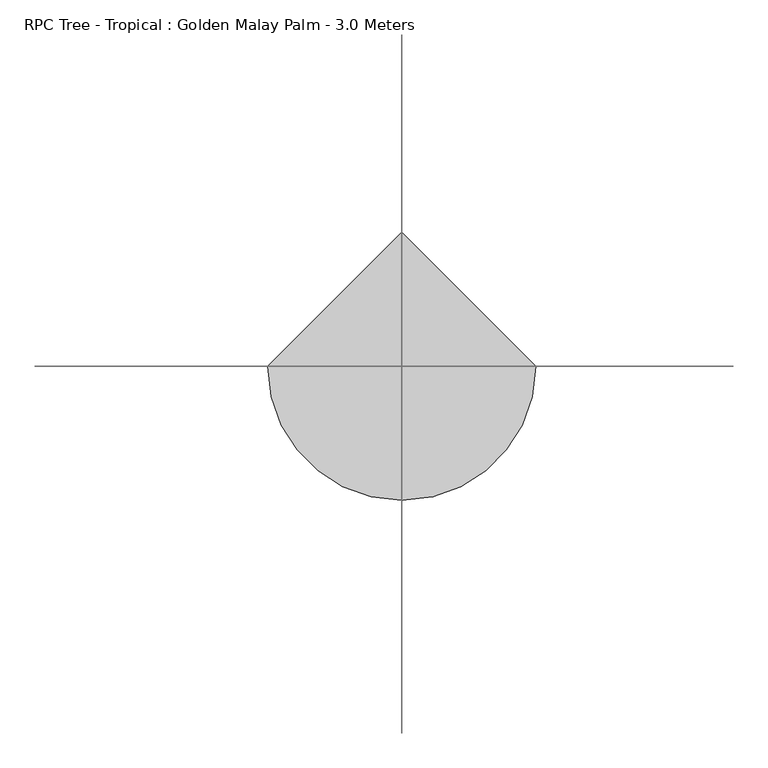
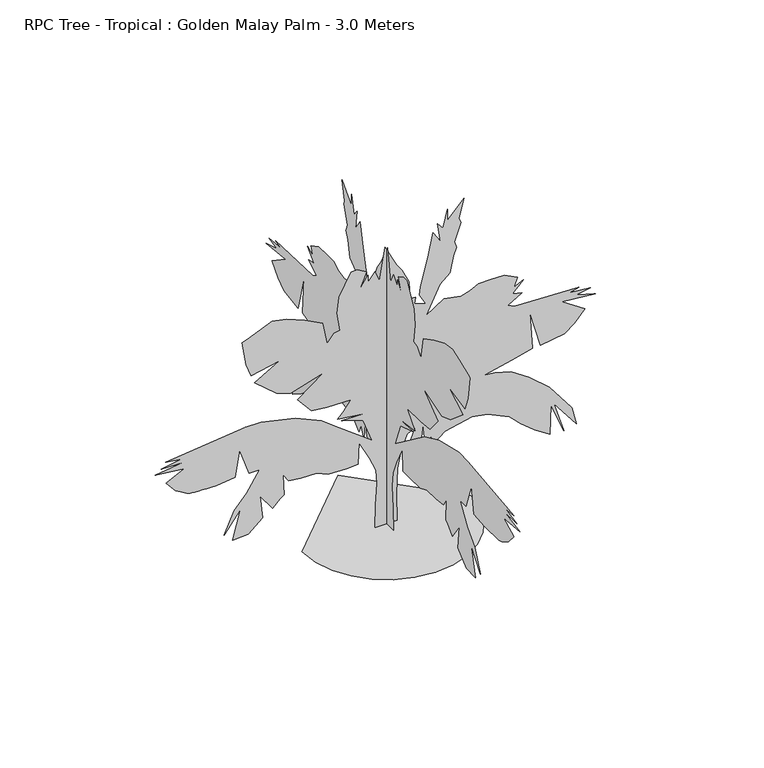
"""IFC4 building model written with IfcOpenShell, lengths in millimetres: geographic element geometry, RPC Tree - Tropical : Golden Malay Palm - 3.0 Meters."""

import ifcopenshell
import ifcopenshell.guid

model = None  # the IFC model being written
_history = None  # IfcOwnerHistory: only IFC2X3 demands one
_inside = {}  # id of a spatial element -> (the spatial element, [elements in it])
_under = {}  # id of a project, library or spatial element -> (it, [spatial elements below it])
_declared = {}  # id of a project -> (the project, [libraries it declares])
_typed = {}  # id of a type object -> (the type object, [elements of that type])
_made_of = {}  # id of a material, layer set ... -> (it, [elements and type objects made of it])


def new_model(schema):
    """Start an empty IFC model of exactly this schema.

    Asked for "IFC4X3", IfcOpenShell would pick the latest addendum, in which some entities
    have other attributes; the version numbers below select the first issue.
    IFC2X3 requires an IfcOwnerHistory on every rooted entity: one is made here for all.
    """
    global model, _history
    if schema == "IFC4X3":
        model = ifcopenshell.file(schema_version=(4, 3, 0, 0))
    else:
        model = ifcopenshell.file(schema=schema)
    _inside.clear()
    _under.clear()
    _declared.clear()
    _typed.clear()
    _made_of.clear()
    _history = None
    if model.schema == "IFC2X3":
        org = make("IfcOrganization", Name="unknown")
        user = make(
            "IfcPersonAndOrganization",
            ThePerson=make("IfcPerson", FamilyName="unknown"),
            TheOrganization=org,
        )
        app = make(
            "IfcApplication",
            ApplicationDeveloper=org,
            Version="unknown",
            ApplicationFullName="unknown",
            ApplicationIdentifier="unknown",
        )
        _history = make(
            "IfcOwnerHistory",
            OwningUser=user,
            OwningApplication=app,
            ChangeAction="ADDED",
            CreationDate=0,
        )
    return model


def make(cls, **values):
    """One entity of the class cls with the attributes given. An attribute that is None is left unset."""
    return model.create_entity(
        cls, **{name: value for name, value in values.items() if value is not None}
    )


def rooted(cls, **values):
    """An entity with a GlobalId (a new one), such as an element, a storey or a relation."""
    return make(cls, GlobalId=ifcopenshell.guid.new(), OwnerHistory=_history, **values)


def si_unit(unit_type, name, prefix=None):
    """IfcSIUnit, for example si_unit("LENGTHUNIT", "METRE", prefix="MILLI")."""
    return make("IfcSIUnit", UnitType=unit_type, Prefix=prefix, Name=name)


def assignment(units):
    """IfcUnitAssignment: the units of a project."""
    return None if units is None else make("IfcUnitAssignment", Units=units)


def point(xyz):
    """IfcCartesianPoint."""
    return None if xyz is None else make("IfcCartesianPoint", Coordinates=xyz)


def direction(xyz):
    """IfcDirection."""
    return None if xyz is None else make("IfcDirection", DirectionRatios=xyz)


def frame(location, z_axis=None, x_axis=None):
    """IfcAxis2Placement3D, a coordinate frame: its origin and axes. An axis left out is left unset."""
    return make(
        "IfcAxis2Placement3D",
        Location=point(location),
        Axis=direction(z_axis),
        RefDirection=direction(x_axis),
    )


def origin():
    """The frame at (0, 0, 0) with its axes left unset."""
    return frame((0.0, 0.0, 0.0))


def place(relative_to, where):
    """IfcLocalPlacement: puts the frame where relative to a parent placement (None: the world)."""
    return make(
        "IfcLocalPlacement", PlacementRelTo=relative_to, RelativePlacement=where
    )


def context(
    kind, dimensions, precision=None, world=None, true_north=None, identifier=None
):
    """IfcGeometricRepresentationContext, for example the 3D "Model" context."""
    return make(
        "IfcGeometricRepresentationContext",
        ContextIdentifier=identifier,
        ContextType=kind,
        CoordinateSpaceDimension=dimensions,
        Precision=precision,
        WorldCoordinateSystem=world,
        TrueNorth=true_north,
    )


def project(units=None, contexts=None):
    """IfcProject with its units and contexts."""
    return rooted(
        "IfcProject",
        Name="project",
        RepresentationContexts=contexts,
        UnitsInContext=assignment(units),
    )


def spatial(cls, under=None, at=None, **own):
    """A site, building, storey or space (cls), placed at a placement, below another one or the project."""
    s = rooted(cls, ObjectPlacement=at, **own)
    if under is not None:
        _under.setdefault(under.id(), (under, []))[1].append(s)
    return s


def point_list(points):
    """IfcCartesianPointList2D or 3D."""
    cls = (
        "IfcCartesianPointList2D" if len(points[0]) == 2 else "IfcCartesianPointList3D"
    )
    return make(cls, CoordList=points)


def triangles(points, corners, closed=None, point_numbers=None):
    """IfcTriangulatedFaceSet: each triangle names its three corners, points numbered from 1."""
    return make(
        "IfcTriangulatedFaceSet",
        Coordinates=point_list(points),
        Closed=closed,
        CoordIndex=corners,
        PnIndex=point_numbers,
    )


def shape(context_of_items, identifier, shape_type, items):
    """IfcShapeRepresentation: the items that make up one representation, for example the "Body"."""
    return make(
        "IfcShapeRepresentation",
        ContextOfItems=context_of_items,
        RepresentationIdentifier=identifier,
        RepresentationType=shape_type,
        Items=items,
    )


def source(mapping_origin, context_of_items, identifier, shape_type, items):
    """IfcRepresentationMap: a shape defined once, which mapped items show again and again."""
    return make(
        "IfcRepresentationMap",
        MappingOrigin=mapping_origin,
        MappedRepresentation=shape(context_of_items, identifier, shape_type, items),
    )


def transform(
    local_origin,
    x_axis=None,
    y_axis=None,
    z_axis=None,
    scale=None,
    scale2=None,
    scale3=None,
    uniform=True,
):
    """IfcCartesianTransformationOperator3D, or its non-uniform kind. x_axis, y_axis, z_axis: its Axis1, 2, 3."""
    if uniform:
        return make(
            "IfcCartesianTransformationOperator3D",
            Axis1=direction(x_axis),
            Axis2=direction(y_axis),
            LocalOrigin=point(local_origin),
            Scale=scale,
            Axis3=direction(z_axis),
        )
    return make(
        "IfcCartesianTransformationOperator3DnonUniform",
        Axis1=direction(x_axis),
        Axis2=direction(y_axis),
        LocalOrigin=point(local_origin),
        Scale=scale,
        Axis3=direction(z_axis),
        Scale2=scale2,
        Scale3=scale3,
    )


def mapped(mapping_source, mapping_target):
    """IfcMappedItem: shows the shape of a source again, moved by a transform."""
    return make(
        "IfcMappedItem", MappingSource=mapping_source, MappingTarget=mapping_target
    )


def made_of(thing, what):
    """Note that an element or type object is made of a material, layer set ...; save() writes the relation."""
    if what is not None:
        _made_of.setdefault(what.id(), (what, []))[1].append(thing)
    return thing


def element(
    cls,
    number,
    at=None,
    inside=None,
    cuts=None,
    type_object=None,
    material=None,
    context=None,
    identifier="Body",
    shape_type=None,
    held_by="IfcProductDefinitionShape",
    body=None,
    shapes=None,
    **own,
):
    """One element of the class cls, such as IfcWall. Its Tag is "e" and its number.

    at: its placement. inside: the storey or other place that contains it. cuts: it is an
    opening in that element (IfcRelVoidsElement). A single representation is given by context,
    identifier, shape_type and body (its items); several are given by shapes. held_by: the class
    of the entity that holds the representations. save() writes the other relations.
    """
    e = rooted(cls, Tag="e%d" % number, ObjectPlacement=at, **own)
    if body is not None:
        shapes = [shape(context, identifier, shape_type, body)]
    if shapes is not None:
        e.Representation = make(held_by, Representations=shapes)
    if inside is not None:
        _inside.setdefault(inside.id(), (inside, []))[1].append(e)
    if cuts is not None:
        rooted(
            "IfcRelVoidsElement", RelatingBuildingElement=cuts, RelatedOpeningElement=e
        )
    if type_object is not None:
        _typed.setdefault(type_object.id(), (type_object, []))[1].append(e)
    return made_of(e, material)


def aggregate(whole, parts):
    """IfcRelAggregates: a whole, such as a stair, and the parts it consists of."""
    return rooted("IfcRelAggregates", RelatingObject=whole, RelatedObjects=parts)


def save(model, path):
    """Write the relations noted so far, then the file.

    IfcRelAggregates (storeys below a building ...), IfcRelContainedInSpatialStructure (elements
    in a storey), IfcRelDefinesByType, IfcRelAssociatesMaterial and IfcRelDeclares: one each for
    every whole, place, type object, material and project.
    """
    for whole, parts in _under.values():
        aggregate(whole, parts)
    for where, things in _inside.values():
        rooted(
            "IfcRelContainedInSpatialStructure",
            RelatedElements=things,
            RelatingStructure=where,
        )
    for kind, things in _typed.values():
        rooted("IfcRelDefinesByType", RelatedObjects=things, RelatingType=kind)
    for what, things in _made_of.values():
        rooted("IfcRelAssociatesMaterial", RelatedObjects=things, RelatingMaterial=what)
    for by, libraries in _declared.values():
        rooted("IfcRelDeclares", RelatingContext=by, RelatedDefinitions=libraries)
    model.write(path)


def rpc_tree_tropical_golden_malay_palm_3_0_meters_7e528e70(model_context):
    return source(origin(), model_context, "Body", "Tessellation", [
        triangles([(0.1967685, 131.4186953, 659.512215), (0.196785, 101.6669593, 520.6697814), (0.1968146, 91.7494597, 272.7373858), (0.1968471, 96.708214, 0.0107067), (0.1968471, -111.5552093, 0.0107067), (0.1968205, -106.5969546, 223.1504053), (0.1967951, -91.720964, 436.3723105), (0.1967791, -101.6382093, 570.2572706), (0.196762, -161.1419446, 714.0572142), (0.1967395, -260.3148883, 902.487137), (0.1967649, -270.232397, 689.2647594), (0.1967655, -379.3223408, 684.3047424), (0.1967649, -552.8747924, 689.2647594), (0.196759, -661.9672251, 738.8496689), (0.196759, -815.6846592, 738.8496689), (0.1967572, -929.7346018, 753.7271765), (0.1967478, -979.3195839, 833.064703), (0.196772, -969.4020933, 629.7597433), (0.196775, -1009.0721283, 604.9672523), (0.1967838, -1078.4945623, 530.587272), (0.1967643, -1197.5020512, 694.222233), (0.1967909, -1172.707053, 471.0823285), (0.1968051, -1311.5519211, 352.074876), (0.1968057, -1460.3094109, 347.1173661), (0.196772, -1380.971957, 629.7597433), (0.1967963, -1539.6493355, 426.45482), (0.1967714, -1445.4344467, 634.7197603), (0.1967555, -1326.4270306, 768.6022133), (0.1967324, -1202.4595247, 961.9896097), (0.1967324, -1301.6345032, 961.9896097), (0.1967017, -1390.8893749, 1219.8394958), (0.1967318, -1435.5168835, 966.9496267), (0.1967342, -1614.0293884, 947.1146456), (0.1967341, -1660.5493687, 948.1846384), (0.1967339, -1705.684259, 949.2971432), (0.1967338, -1748.041848, 950.4971426), (0.1967336, -1786.236755, 951.8271486), (0.1967334, -1818.8817101, 953.3296005), (0.1967332, -1844.584211, 955.0520971), (0.196733, -1861.961784, 957.0321362), (0.1967325, -1876.0142693, 960.8921476), (0.1967317, -1892.406728, 967.8746429), (0.1967306, -1910.7542999, 977.4595957), (0.1967292, -1930.6591896, 989.1245813), (0.1967276, -1951.7391529, 1002.3545877), (0.1967259, -1973.596685, 1016.6221035), (0.1967241, -1995.8466351, 1031.4121164), (0.1967117, -2085.1016521, 1135.5445684), (0.1967017, -1916.5067104, 1219.8394958), (0.1966981, -2189.2341042, 1249.5920403), (0.1966934, -1921.4667274, 1289.2620026), (0.1966928, -2134.6891777, 1294.2195488), (0.1966887, -1946.2592548, 1328.9319649), (0.1966863, -2090.0591984, 1348.766946), (0.1966763, -1336.3444485, 1433.0619461), (0.1966763, -1187.5845606, 1433.0619461), (0.1966851, -860.3121677, 1358.6818932), (0.1966987, -617.3397892, 1244.634494), (0.1967141, -448.7448112, 1115.7095873), (0.1967419, -136.3486996, 882.6521559), (0.1967141, -225.6046523, 1115.7095873), (0.1967064, -428.90983, 1180.1720043), (0.196707, -215.6871617, 1175.21206), (0.1967028, -463.6198116, 1209.9245487), (0.1966969, -414.0323224, 1259.5094582), (0.1966851, -334.6948686, 1358.6818932), (0.1966845, -562.7947901, 1363.6419102), (0.1966828, -711.5522072, 1378.5170197), (0.1966638, -845.4371309, 1537.1943981), (0.196642, -597.5047717, 1720.664304), (0.1966532, -909.8996206, 1626.451886), (0.1966479, -1043.784617, 1671.0793945), (0.1966266, -1252.0469776, 1849.5892834), (0.1966106, -1014.0320726, 1983.4741344), (0.1966171, -1281.799522, 1928.929208), (0.1966018, -1331.3869022, 2057.8541874), (0.196574, -1366.0969929, 2290.9116188), (0.1965728, -1331.3869022, 2300.8290367), (0.1965657, -1192.5420341, 2360.3315094), (0.1965604, -1083.4520359, 2404.9590179), (0.1965633, -949.5696556, 2380.1664906), (0.1965722, -776.0146969, 2305.7865829), (0.1965829, -607.4222623, 2216.5315659), (0.1966089, -562.7947901, 1998.3492439), (0.1965994, -498.3297933, 2077.6891685), (0.1965982, -438.8273206, 2087.6067318), (0.1965763, -468.5798286, 2271.0766376), (0.196558, -448.7448112, 2424.7939991), (0.1965332, -334.6948686, 2633.0488747), (0.1965326, -280.1498876, 2638.0238617), (0.1965385, -190.8936715, 2588.4239822), (0.1965574, -255.3573966, 2429.7540161), (0.1965433, -176.0179261, 2548.7490784), (0.1965515, -176.0179261, 2479.3390709), (0.1965421, -111.5552093, 2558.674054), (0.1965545, -66.9277235, 2454.5463982), (0.1965166, -17.3408179, 2771.8988297), (0.1965421, 91.7494597, 2558.674054), (0.1965509, 146.2949402, 2484.2989426), (0.1965675, 210.7571574, 2345.4565453), (0.1965882, 220.6749205, 2171.9042027), (0.1965882, 275.2198833, 2171.9042027), (0.1965959, 265.3023927, 2107.441713), (0.1966006, 374.3923365, 2067.7716053), (0.1965876, 309.9298831, 2176.8616035), (0.1965775, 319.8473737, 2261.1590744), (0.1965456, 389.2698441, 2528.9241257), (0.1965184, 438.8548262, 2757.0238655), (0.1965314, 508.2772965, 2647.9238388), (0.1965096, 483.4848055, 2831.3989769), (0.1965173, 533.0697876, 2766.9488411), (0.196496, 577.6972598, 2945.4487015), (0.1965096, 577.6972598, 2831.3989769), (0.1964895, 731.417201, 2999.9988602), (0.1965113, 686.7896925, 2816.5240128), (0.1965166, 701.6647293, 2771.8988297), (0.1965373, 642.1597132, 2598.3489578), (0.196545, 661.994767, 2533.8741142), (0.1965539, 632.2422226, 2459.5039444), (0.1965728, 597.5322773, 2300.8290367), (0.1965823, 503.3173159, 2221.4891121), (0.1966148, 374.3923365, 1948.7641891), (0.1966012, 542.9872782, 2062.8117336), (0.1966053, 701.6647293, 2028.101643), (0.1966024, 790.9196737, 2052.8941704), (0.196597, 870.259671, 2097.5241497), (0.196597, 979.3495966, 2097.5241497), (0.196597, 1113.2345203, 2097.5241497), (0.1966047, 1237.1994827, 2033.06166), (0.1966154, 1207.447011, 1943.8041721), (0.19661, 1296.7044262, 1988.4316807), (0.1966225, 1192.5720469, 1884.3016994), (0.1966248, 1281.8269913, 1864.4667183), (0.1966343, 1147.9445383, 1785.1267937), (0.1966384, 1212.407028, 1750.4168484), (0.1966414, 1822.3217617, 1725.624321), (0.1966437, 1728.1068729, 1705.7893398), (0.1966461, 1931.4117599, 1685.9543587), (0.1966491, 1797.5292343, 1661.1618313), (0.1966556, 1976.0392685, 1606.6169048), (0.1966514, 1658.686837, 1641.3268501), (0.1966692, 1876.8666882, 1492.5668896), (0.1966822, 1777.6942532, 1383.4768913), (0.196691, 1683.4793644, 1309.0969837), (0.1966952, 1455.38195, 1274.3870384), (0.196652, 1356.2068989, 1636.3668331), (0.1966952, 1381.001897, 1274.3870384), (0.1967011, 1192.5720469, 1224.7995129), (0.1967082, 919.8446531, 1165.2945694), (0.1967099, 1023.9771051, 1150.4195326), (0.1967147, 1177.69701, 1110.7495703), (0.1967283, 1346.289481, 996.7020985), (0.1967484, 1539.6769501, 828.1071568), (0.1967821, 1752.9018711, 545.4622725), (0.1968028, 1797.5292343, 371.9098572), (0.1967702, 1584.3069294, 644.6372509), (0.1968063, 1678.5218182, 342.1573491), (0.1967708, 1554.554385, 639.6772339), (0.1968045, 1544.6368217, 357.0348567), (0.1967933, 1400.8368782, 451.2498181), (0.1967809, 1271.909428, 555.379763), (0.1967679, 1162.8195024, 664.4697613), (0.1967561, 954.5571419, 763.6446671), (0.1967531, 805.7971813, 788.4371944), (0.1967596, 552.9047688, 733.8921953), (0.1967696, 448.7723167, 649.5947245), (0.1967602, 419.0223158, 728.9347218), (0.1967726, 374.3923365, 624.8022697), (0.1967442, 344.6423718, 862.8171747), (0.1967667, 319.8473737, 674.3872519), (0.1967685, 230.5919024, 659.512215), (0.1967561, 230.5919024, 763.6446671), (0.196743, 275.2198833, 872.7346653), (0.1967484, 190.9226668, 828.1071568), (0.1967584, 161.1709399, 743.8096859), (131.6153675, 0.0001619, 659.512215), (101.8636316, 0.0001785, 520.6697814), (91.9461319, 0.000208, 272.7373858), (96.9048863, 0.0002405, 0.0106061), (-111.3585371, 0.0002405, 0.0106934), (-106.4002823, 0.0002139, 223.1504053), (-91.524537, 0.0001885, 436.3723105), (-101.441537, 0.0001726, 570.2572706), (-160.9455176, 0.0001554, 714.0572142), (-260.1182251, 0.000133, 902.487137), (-270.0357339, 0.0001584, 689.2647594), (-379.1256595, 0.000159, 684.3047424), (-552.6805819, 0.0001584, 689.2647594), (-661.7705801, 0.0001525, 738.8496689), (-815.4880142, 0.0001525, 738.8496689), (-929.5379568, 0.0001507, 753.7271765), (-979.1254824, 0.0001412, 833.064703), (-969.2054483, 0.0001655, 629.7597433), (-1008.8754833, 0.0001684, 604.9672523), (-1078.2979174, 0.0001773, 530.587272), (-1197.3054062, 0.0001578, 694.222233), (-1172.510408, 0.0001844, 471.0823285), (-1311.3552761, 0.0001986, 352.074876), (-1460.1127659, 0.0001992, 347.1173661), (-1380.775312, 0.0001655, 629.7597433), (-1539.4526905, 0.0001897, 426.45482), (-1445.2378017, 0.0001649, 634.7197603), (-1326.2303856, 0.0001489, 768.6022133), (-1202.2628798, 0.0001259, 961.9896097), (-1301.4378582, 0.0001259, 961.9896097), (-1390.6927299, 9.51e-05, 1219.8394958), (-1435.3202385, 0.0001253, 966.9496267), (-1613.8327435, 0.0001276, 947.1146456), (-1660.3527237, 0.0001275, 948.1846384), (-1705.4876141, 0.0001274, 949.2971432), (-1747.845203, 0.0001272, 950.4971426), (-1786.04011, 0.0001271, 951.8271486), (-1818.6850651, 0.0001269, 953.3296005), (-1844.387566, 0.0001267, 955.0520971), (-1861.765139, 0.0001265, 957.0321362), (-1875.8176243, 0.000126, 960.8921476), (-1892.210083, 0.0001252, 967.8746429), (-1910.557655, 0.000124, 977.4595957), (-1930.4625446, 0.0001226, 989.1245813), (-1951.5425079, 0.0001211, 1002.3545877), (-1973.4000401, 0.0001194, 1016.6221035), (-1995.6499901, 0.0001176, 1031.4121164), (-2084.9050072, 0.0001052, 1135.5445684), (-1916.3100655, 9.51e-05, 1219.8394958), (-2189.0374592, 9.16e-05, 1249.5920403), (-1921.2700825, 8.69e-05, 1289.2620026), (-2134.4925327, 8.63e-05, 1294.2195488), (-1946.0626099, 8.21e-05, 1328.9319649), (-2089.8625534, 7.98e-05, 1348.766946), (-1336.1478035, 6.97e-05, 1433.0619461), (-1187.3879156, 6.97e-05, 1433.0619461), (-860.1155228, 7.86e-05, 1358.6818932), (-617.1431442, 9.22e-05, 1244.634494), (-448.5481298, 0.0001075, 1115.7095873), (-136.1520274, 0.0001353, 882.6521559), (-225.4082435, 0.0001075, 1115.7095873), (-428.7131487, 9.99e-05, 1180.1720043), (-215.4904986, 0.0001005, 1175.21206), (-463.4231303, 9.63e-05, 1209.9245487), (-413.8381482, 9.04e-05, 1259.5094582), (-334.4981873, 7.86e-05, 1358.6818932), (-562.5981088, 7.8e-05, 1363.6419102), (-711.3555622, 7.62e-05, 1378.5170197), (-845.240486, 5.73e-05, 1537.1943981), (-597.3080904, 3.54e-05, 1720.664304), (-909.7029757, 4.67e-05, 1626.451886), (-1043.5879721, 4.13e-05, 1671.0793945), (-1251.8503326, 2.01e-05, 1849.5892834), (-1013.8354277, 4.1e-06, 1983.4741344), (-1281.602877, 1.06e-05, 1928.929208), (-1331.1902573, -4.8e-06, 2057.8541874), (-1365.9003479, -3.25e-05, 2290.9116188), (-1331.1902573, -3.37e-05, 2300.8290367), (-1192.3453892, -4.08e-05, 2360.3315094), (-1083.2553909, -4.61e-05, 2404.9590179), (-949.3730106, -4.32e-05, 2380.1664906), (-775.8180519, -3.43e-05, 2305.7865829), (-607.225581, -2.37e-05, 2216.5315659), (-562.5981088, 2.3e-06, 1998.3492439), (-498.133112, -7.1e-06, 2077.6891685), (-438.6306393, -8.3e-06, 2087.6067318), (-468.3831473, -3.02e-05, 2271.0766376), (-448.5481298, -4.85e-05, 2424.7939991), (-334.4981873, -7.33e-05, 2633.0488747), (-279.9532245, -7.39e-05, 2638.0238617), (-190.6972627, -6.8e-05, 2588.4239822), (-255.1607334, -4.91e-05, 2429.7540161), (-175.821263, -6.33e-05, 2548.7490784), (-175.821263, -5.5e-05, 2479.3390709), (-111.3585371, -6.45e-05, 2558.674054), (-66.7310513, -5.21e-05, 2454.5463982), (-17.1442217, -8.99e-05, 2771.8988297), (91.9461319, -6.45e-05, 2558.674054), (146.4916125, -5.56e-05, 2484.2989426), (210.9538206, -3.91e-05, 2345.4565453), (220.8713293, -1.84e-05, 2171.9042027), (275.4165464, -1.84e-05, 2171.9042027), (265.4990559, -1.07e-05, 2107.441713), (374.5890178, -5.9e-06, 2067.7716053), (310.1265644, -1.9e-05, 2176.8616035), (320.044055, -2.9e-05, 2261.1590744), (389.4665254, -6.09e-05, 2528.9241257), (439.0515075, -8.81e-05, 2757.0238655), (508.4739779, -7.51e-05, 2647.9238388), (483.6814868, -9.7e-05, 2831.3989769), (533.2664689, -8.93e-05, 2766.9488411), (577.8939411, -0.0001106, 2945.4487015), (577.8939411, -9.7e-05, 2831.3989769), (731.613846, -0.0001171, 2999.9988602), (686.9838667, -9.52e-05, 2816.5240128), (701.8613743, -8.99e-05, 2771.8988297), (642.3563581, -6.92e-05, 2598.3489578), (662.191412, -6.15e-05, 2533.8741142), (632.4388676, -5.26e-05, 2459.5039444), (597.7289586, -3.37e-05, 2300.8290367), (503.5139972, -2.43e-05, 2221.4891121), (374.5890178, 8.2e-06, 1948.7641891), (543.1839595, -5.4e-06, 2062.8117336), (701.8613743, -1.2e-06, 2028.101643), (791.1163187, -4.2e-06, 2052.8941704), (870.456316, -9.5e-06, 2097.5241497), (979.5462416, -9.5e-06, 2097.5241497), (1113.4311653, -9.5e-06, 2097.5241497), (1237.3961277, -1.8e-06, 2033.06166), (1207.643656, 8.8e-06, 1943.8041721), (1296.9010712, 3.5e-06, 1988.4316807), (1192.7686918, 1.59e-05, 1884.3016994), (1282.0236362, 1.83e-05, 1864.4667183), (1148.1411833, 2.77e-05, 1785.1267937), (1212.603673, 3.19e-05, 1750.4168484), (1822.5184067, 3.48e-05, 1725.624321), (1728.3035179, 3.72e-05, 1705.7893398), (1931.6084049, 3.96e-05, 1685.9543587), (1797.7258793, 4.25e-05, 1661.1618313), (1976.2359135, 4.9e-05, 1606.6169048), (1658.8810112, 4.49e-05, 1641.3268501), (1877.0633331, 6.26e-05, 1492.5668896), (1777.8908981, 7.56e-05, 1383.4768913), (1683.6760094, 8.45e-05, 1309.0969837), (1455.578595, 8.86e-05, 1274.3870384), (1356.4035439, 4.55e-05, 1636.3668331), (1381.1960712, 8.86e-05, 1274.3870384), (1192.7686918, 9.45e-05, 1224.7995129), (920.0412981, 0.0001016, 1165.2945694), (1024.1737501, 0.0001034, 1150.4195326), (1177.893655, 0.0001081, 1110.7495703), (1346.4861259, 0.0001217, 996.7020985), (1539.873595, 0.0001418, 828.1071568), (1753.0959, 0.0001755, 545.4622725), (1797.7258793, 0.0001962, 371.9098572), (1584.5035744, 0.0001637, 644.6372509), (1678.7159924, 0.0001998, 342.1573491), (1554.75103, 0.0001643, 639.6772339), (1544.8334667, 0.000198, 357.0348567), (1401.0335232, 0.0001868, 451.247311), (1272.106073, 0.0001743, 555.379763), (1163.0161474, 0.0001613, 664.4697613), (954.7537868, 0.0001495, 763.6446671), (805.9938263, 0.0001466, 788.4371944), (553.1014501, 0.0001531, 733.8921953), (448.9689981, 0.0001631, 649.5947245), (419.2165263, 0.0001537, 728.9321783), (374.5890178, 0.0001661, 624.8022697), (344.8390532, 0.0001377, 862.8171747), (320.044055, 0.0001602, 674.3872519), (230.7885655, 0.0001619, 659.512215), (230.7885655, 0.0001495, 763.6446671), (275.4165464, 0.0001365, 872.7346653), (191.1193299, 0.0001418, 828.1071568), (161.3676031, 0.0001519, 743.8096859), (-799.4605042, 0.0, 6.94e-05), (-778.3205154, -183.2284235, 7.19e-05), (-718.1130713, -351.4948606, 7.91e-05), (-623.6580809, -499.9772944, 9.03e-05), (-499.7806131, -623.8547258, 0.0001051), (-351.2981792, -718.3097162, 1.06e-05), (-183.031506, -778.5171604, 3.07e-05), (0.196706, -799.6571491, 5.25e-05), (183.4250866, -778.5171604, 7.44e-05), (351.6915419, -718.3097162, 9.44e-05), (500.1739758, -623.8547258, 0.0), (624.0513708, -499.9772944, 1.48e-05), (718.5063612, -351.4948606, 2.6e-05), (778.7138054, -183.2281692, 3.32e-05), (799.8537941, 6.99e-05, 3.57e-05), (0.1965662, 799.6571491, 5.25e-05)], [[157, 156, 158], [140, 139, 141], [52, 51, 53], [26, 25, 27], [112, 111, 113], [136, 135, 137], [54, 53, 55], [50, 49, 51], [138, 137, 139], [62, 61, 63], [131, 130, 132], [155, 154, 156], [154, 153, 156], [114, 113, 115], [110, 109, 111], [168, 167, 169], [93, 92, 94], [97, 96, 98], [139, 137, 141], [133, 132, 134], [108, 107, 109], [137, 135, 141], [27, 25, 28], [64, 63, 65], [159, 158, 160], [95, 94, 96], [53, 51, 55], [73, 72, 74], [166, 165, 167], [24, 23, 25], [23, 22, 25], [22, 21, 25], [25, 21, 28], [65, 63, 66], [48, 47, 49], [20, 19, 21], [171, 170, 172], [170, 169, 172], [172, 169, 173], [102, 101, 103], [142, 141, 143], [156, 153, 158], [69, 68, 70], [68, 67, 70], [28, 21, 29], [5, 4, 6], [4, 3, 6], [6, 3, 7], [3, 2, 7], [7, 2, 8], [2, 1, 8], [160, 158, 161], [8, 1, 9], [98, 96, 99], [11, 10, 12], [145, 144, 146], [144, 143, 146], [143, 141, 146], [141, 135, 146], [67, 66, 70], [91, 90, 92], [90, 89, 92], [89, 88, 92], [77, 76, 78], [88, 87, 92], [1, 175, 9], [129, 128, 130], [75, 74, 76], [51, 49, 55], [47, 46, 49], [147, 146, 148], [158, 153, 161], [153, 152, 161], [161, 152, 162], [162, 152, 163], [152, 151, 163], [151, 150, 163], [150, 149, 163], [163, 149, 164], [72, 71, 74], [71, 70, 74], [76, 74, 78], [78, 74, 79], [79, 74, 80], [80, 74, 81], [81, 74, 82], [74, 70, 82], [82, 70, 83], [83, 70, 84], [32, 31, 33], [146, 135, 148], [148, 135, 149], [135, 134, 149], [99, 96, 100], [46, 45, 49], [30, 29, 31], [9, 175, 10], [175, 174, 10], [45, 44, 49], [49, 44, 55], [44, 43, 55], [43, 42, 55], [42, 41, 55], [41, 40, 55], [40, 39, 55], [39, 38, 55], [38, 37, 55], [37, 36, 55], [36, 35, 55], [35, 34, 55], [34, 33, 55], [33, 31, 55], [55, 31, 56], [31, 29, 56], [56, 29, 57], [57, 29, 58], [100, 96, 101], [29, 21, 58], [115, 113, 116], [116, 113, 117], [113, 111, 117], [111, 109, 117], [109, 107, 117], [117, 107, 118], [118, 107, 119], [107, 106, 119], [119, 106, 120], [120, 106, 121], [106, 105, 121], [105, 104, 121], [121, 104, 122], [104, 103, 122], [167, 165, 169], [12, 10, 13], [87, 86, 92], [164, 149, 165], [165, 149, 169], [18, 17, 19], [19, 17, 21], [21, 17, 58], [58, 17, 59], [17, 16, 59], [16, 15, 59], [15, 14, 59], [14, 13, 59], [13, 10, 59], [59, 10, 60], [10, 174, 60], [60, 174, 61], [61, 174, 63], [174, 173, 63], [128, 127, 130], [130, 127, 132], [132, 127, 134], [127, 126, 134], [126, 125, 134], [134, 125, 149], [125, 124, 149], [149, 124, 169], [124, 123, 169], [123, 122, 169], [169, 122, 173], [173, 122, 63], [63, 122, 66], [66, 122, 70], [122, 103, 70], [70, 103, 84], [84, 103, 85], [85, 103, 86], [103, 101, 86], [101, 96, 86], [86, 96, 92], [96, 94, 92], [331, 332, 333], [314, 315, 316], [226, 227, 228], [200, 201, 202], [286, 287, 288], [310, 311, 312], [228, 229, 230], [224, 225, 226], [312, 313, 314], [236, 237, 238], [305, 306, 307], [329, 330, 331], [328, 329, 331], [288, 289, 290], [284, 285, 286], [342, 343, 344], [267, 268, 269], [271, 272, 273], [312, 314, 316], [307, 308, 309], [282, 283, 284], [310, 312, 316], [200, 202, 203], [238, 239, 240], [333, 334, 335], [269, 270, 271], [226, 228, 230], [247, 248, 249], [340, 341, 342], [198, 199, 200], [197, 198, 200], [196, 197, 200], [196, 200, 203], [238, 240, 241], [222, 223, 224], [194, 195, 196], [345, 346, 347], [344, 345, 347], [344, 347, 348], [276, 277, 278], [316, 317, 318], [328, 331, 333], [243, 244, 245], [242, 243, 245], [196, 203, 204], [179, 180, 181], [178, 179, 181], [178, 181, 182], [177, 178, 182], [177, 182, 183], [176, 177, 183], [333, 335, 336], [176, 183, 184], [271, 273, 274], [185, 186, 187], [319, 320, 321], [318, 319, 321], [316, 318, 321], [310, 316, 321], [241, 242, 245], [265, 266, 267], [264, 265, 267], [263, 264, 267], [251, 252, 253], [262, 263, 267], [350, 176, 184], [303, 304, 305], [249, 250, 251], [224, 226, 230], [221, 222, 224], [321, 322, 323], [328, 333, 336], [327, 328, 336], [327, 336, 337], [327, 337, 338], [326, 327, 338], [325, 326, 338], [324, 325, 338], [324, 338, 339], [246, 247, 249], [245, 246, 249], [249, 251, 253], [249, 253, 254], [249, 254, 255], [249, 255, 256], [249, 256, 257], [245, 249, 257], [245, 257, 258], [245, 258, 259], [206, 207, 208], [310, 321, 323], [310, 323, 324], [309, 310, 324], [271, 274, 275], [220, 221, 224], [204, 205, 206], [350, 184, 185], [349, 350, 185], [219, 220, 224], [219, 224, 230], [218, 219, 230], [217, 218, 230], [216, 217, 230], [215, 216, 230], [214, 215, 230], [213, 214, 230], [212, 213, 230], [211, 212, 230], [210, 211, 230], [209, 210, 230], [208, 209, 230], [206, 208, 230], [206, 230, 231], [204, 206, 231], [204, 231, 232], [204, 232, 233], [271, 275, 276], [196, 204, 233], [288, 290, 291], [288, 291, 292], [286, 288, 292], [284, 286, 292], [282, 284, 292], [282, 292, 293], [282, 293, 294], [281, 282, 294], [281, 294, 295], [281, 295, 296], [280, 281, 296], [279, 280, 296], [279, 296, 297], [278, 279, 297], [340, 342, 344], [185, 187, 188], [261, 262, 267], [324, 339, 340], [324, 340, 344], [192, 193, 194], [192, 194, 196], [192, 196, 233], [192, 233, 234], [191, 192, 234], [190, 191, 234], [189, 190, 234], [188, 189, 234], [185, 188, 234], [185, 234, 235], [349, 185, 235], [349, 235, 236], [349, 236, 238], [348, 349, 238], [302, 303, 305], [302, 305, 307], [302, 307, 309], [301, 302, 309], [300, 301, 309], [300, 309, 324], [299, 300, 324], [299, 324, 344], [298, 299, 344], [297, 298, 344], [297, 344, 348], [297, 348, 238], [297, 238, 241], [297, 241, 245], [278, 297, 245], [278, 245, 259], [278, 259, 260], [278, 260, 261], [276, 278, 261], [271, 276, 261], [271, 261, 267], [269, 271, 267], [365, 366, 351], [364, 365, 351], [364, 351, 352], [363, 364, 352], [363, 352, 353], [363, 353, 354], [362, 363, 354], [361, 362, 354], [361, 354, 355], [361, 355, 356], [361, 356, 357], [361, 357, 358], [361, 358, 359], [361, 359, 360]], closed=False),
    ])


if __name__ == "__main__":
    model = new_model("IFC4")
    model_context = context("Model", 3, world=origin())
    ifc_project = project(units=[si_unit("LENGTHUNIT", "METRE", prefix="MILLI")], contexts=[model_context])
    site = spatial("IfcSite", under=ifc_project)
    building = spatial("IfcBuilding", under=site)
    placement = place(None, origin())
    rpc_tree_tropical_golden_malay_palm_3_0_meters_shape = rpc_tree_tropical_golden_malay_palm_3_0_meters_7e528e70(model_context)
    element("IfcGeographicElement", 1, ObjectType="RPC Tree - Tropical : Golden Malay Palm - 3.0 Meters", at=placement, inside=building, context=model_context, shape_type="MappedRepresentation", body=[
        mapped(rpc_tree_tropical_golden_malay_palm_3_0_meters_shape, transform((0.0, 0.0, 0.0), x_axis=(1.0, 0.0, 0.0), y_axis=(0.0, 1.0, 0.0), z_axis=(0.0, 0.0, 1.0))),
    ])
    save(model, "model.ifc")
